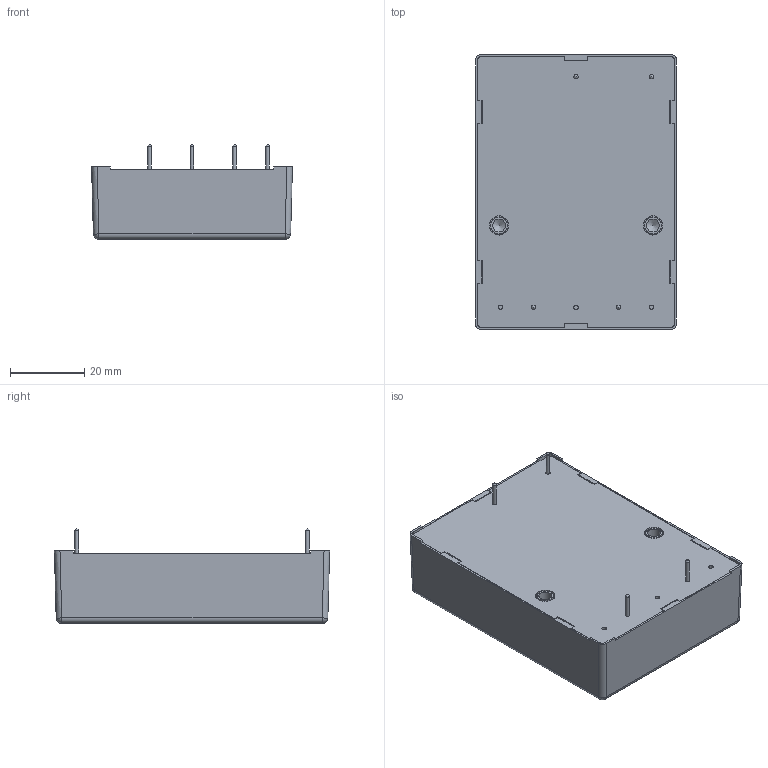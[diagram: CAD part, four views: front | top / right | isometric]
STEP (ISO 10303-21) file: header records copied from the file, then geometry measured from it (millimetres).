
FILE_DESCRIPTION(/* description */ (''),/* implementation_level */ '2;1');
FILE_NAME(/* name */ 'C:\Users\Calliope\Desktop\TMM 24 (Single Output).stp',/* time_stamp */ '2021-08-03T13:33:39+08:00',/* author */ ('Calliope'),/* organization */ (''),/* preprocessor_version */ 'ST-DEVELOPER v16.1',/* originating_system */ 'Autodesk Inventor 2016',/* authorisation */ '');
FILE_SCHEMA (('AUTOMOTIVE_DESIGN { 1 0 10303 214 3 1 1 }'));
Length unit declared in the file: millimetre
Products named in the file (1): TMM 24 (Single Output)
Bounding box: 54.04 x 74.04 x 25.5 mm (x, y, z)
Volume: 73664.9 mm3; surface area: 13371.5 mm2
Topology: 1 solids, 1 shells, 296 faces, 837 edges, 550 vertices
Faces by surface type: plane 242, cylinder 44, sphere 8, cone 2
Full cylindrical faces by diameter (mm): 1 x4, 1.2 x7, 3.459 x2, 4.4 x2, 5.2 x2
Entity records: 9529 total; most frequent: CARTESIAN_POINT 1633, ORIENTED_EDGE 1596, DIRECTION 1480, EDGE_CURVE 798, LINE 710, VECTOR 710, VERTEX_POINT 538, AXIS2_PLACEMENT_3D 385
